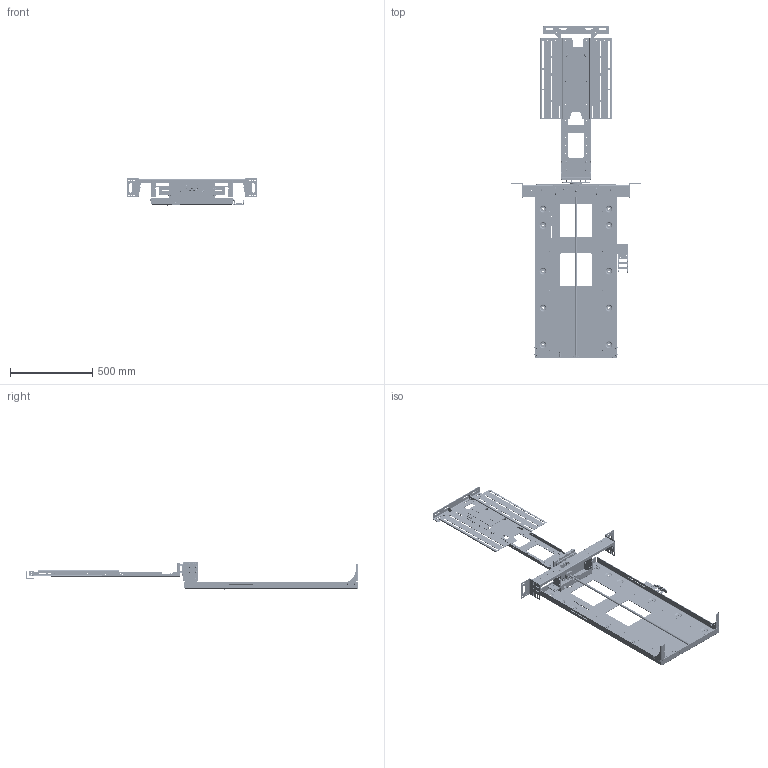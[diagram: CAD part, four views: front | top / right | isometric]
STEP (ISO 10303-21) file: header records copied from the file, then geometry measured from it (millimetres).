
FILE_DESCRIPTION (( 'STEP AP203' ), '1' );
FILE_NAME ('LSM-BE7 - 3D CAD UP ISSUE001.STEP', '2023-05-25T14:49:05', ( '' ), ( '' ), 'SwSTEP 2.0', 'SolidWorks 2019', '' );
FILE_SCHEMA (( 'CONFIG_CONTROL_DESIGN' ));
Length unit declared in the file: millimetre
Products named in the file (73): LSM21-409-BP MOUNT DISC PLATE; LSM V4-220 H-19 KH MOUNT DISC; ISO 7380 - M4 x 8 - 8N_ISO 7380 - M4 x 8 - 8N; LSM V4-401 BACK PLATE PUNCH_H1060; LSM21-406-BP BE TOP BRACKET; LSM V4-002 FOOT LEFT; ISO 10642 - M5 x 8 --- 8N_ISO 10642 - M5 x 8 --- 8N; LSM V4-057 BLANK SWITCH CARRIER; ISO 7380 - M6 x 10 --- 10N_ISO 7380 - M6 x 10 --- 10N; ISO 4762 M5 x 50 - 22N_ISO 4762 M5 x 50 - 22N; LSM V4-010 TOP SWITCH STOP; LSM21-448-MS SWITCH HOUSING ; ISO - 4032 - M4 - D - N_ISO - 4032 - M4 - D - N; Hexagon Nut ISO - 4033 - M6 - D - N_Hexagon Nut ISO - 4033 - M6 - D - N; LSM21-403-BP SWIVEL COVER_FOLDED; ISO 10642 - M6 x 12 --- 12N_ISO 10642 - M6 x 12 --- 12N; M6 Hex Post_20; LSM21-408-BP UPRIGHT MIRROR; Washer ISO 7093 - 6BZP_Washer ISO 7093 - 6BZP; LSM V4-252 LEAD SCREW TOP BUSH; LSM21-201-MS COVER BOSS_DEFAULT; ISO - 4034 - M6 - N_ISO - 4034 - M6 - N; ISO 7380 - M4 x 10 - 10N_ISO 7380 - M4 x 10 - 10N; Washer ISO 7089 - 6BZP_Washer ISO 7089 - 6BZP; SWITCH HOUSING LANDING BOARD; ISO 7380 - M6 x 12 --- 12N_ISO 7380 - M6 x 12 --- 12N; LSM-BE7 - 3D CAD UP ISSUE001; ISO 4762 M5 x 8 --- 8N_ISO 4762 M5 x 8 --- 8N; KH-002 MOUNT LOCK PLATE_Cam; ISO 7380 - M6 x 16 - 16N_ISO 7380 - M6 x 16 - 16N; ISO 10642 - M6 x 16 - 16C_ISO 10642 - M6 x 16 - 16C; 0033-014 60mm TRACK END M_Z14.4.1PZ; LSM21-404-BP LIFT MOUNT_780 ; LSM V4-007 BLOCK BRACKET MIRROR; ISO - 4032 - M5 - D - N_ISO - 4032 - M5 - D - N; ISO 4762 M6 x 40 - 24N_ISO 4762 M6 x 40 - 24N; LSM V4-245 TOP MOTOR BOSS; KH-204 CAM BOSS; LSM21-410-BP BEAM FRONT; ISO 7380 - M5 x 12 - 12N_ISO 7380 - M5 x 12 - 12N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
Assembly tree (203 placements, depth 2):
  LSM-BE7 - 3D CAD UP ISSUE001
    LSM V4-401 BACK PLATE PUNCH_H1060
    LSM Igus Bracket_V2
    0033-014 60mm TRACK END M_Z14.4.1PZ
    LSM V4-211 LEAD SCREW_H1060
    LSM21-415-BP BEAM
    LSM21-410-BP BEAM FRONT
    LSM V4-006 BLOCK BRACKET
    0077-007 SAIA-BURGESS SEALED MICROSWITCH_OPERATING  x2
    M6 Hex Post_20
    0033-013 60mm TRACK LINK_Z14.4.028.0  x2
    LSM V4-002 FOOT LEFT
    LSM V4-003 FOOT RIGHT
    LSM V4-252 LEAD SCREW TOP BUSH
    LSM V4-251 LEAD SCREW BOTTOM BUSH
    LSM V4-010 TOP SWITCH STOP
    LSM V4-057 BLANK SWITCH CARRIER  x2
    LSM V4-245 TOP MOTOR BOSS
    SWITCH HOUSING LANDING BOARD
    LSM21-409-BP MOUNT DISC PLATE
    LSM21-448-MS SWITCH HOUSING 
    LSM21-004-BP UPRIGHT FOOT
    LSM21-201-MS COVER BOSS_DEFAULT  x2
    LSM21-403-BP SWIVEL COVER_FOLDED
    LSM21-407-BP UPRIGHT
    LSM21-406-BP BE TOP BRACKET
    LSM21-408-BP UPRIGHT MIRROR
    LSM21-404-BP LIFT MOUNT_780 
    LSM V4-220 H-19 KH MOUNT DISC
    LSM21-005-BP LOWER PLATE_FOLDED
    KH-001 MOUNT PLATE_V400
    KH-204 CAM BOSS
    KH-205 BOSS SPACER_15MM  x4
    KH-002 MOUNT LOCK PLATE_Cam
    KH-206 SCREEN MOUNT BOSS  x4
    KH-003 CAM LEVER
    M4X20mm HEX SPACER  x2
    LSM V4-007 BLOCK BRACKET MIRROR
    Hexagon Flange Nut ISO - 4161 - M6 - N_Hexagon Flange Nut ISO - 4161 - M6 - N  x4
    ISO 10642 - M5 x 8 --- 8N_ISO 10642 - M5 x 8 --- 8N  x2
    ISO 4762 M5 x 8 --- 8N_ISO 4762 M5 x 8 --- 8N  x2
    ISO 7380 - M5 x 10 --- 10N_ISO 7380 - M5 x 10 --- 10N  x2
    ISO 7380 - M6 x 10 --- 10N_ISO 7380 - M6 x 10 --- 10N  x18
    ISO 4017 - M6 x 16-N_ISO 4017 - M6 x 16-N
    ISO 10642 - M6 x 12 --- 12N_ISO 10642 - M6 x 12 --- 12N
    Hexagon Nut ISO - 4033 - M6 - D - N_Hexagon Nut ISO - 4033 - M6 - D - N
    ISO 7380 - M6 x 12 --- 12N_ISO 7380 - M6 x 12 --- 12N  x11
    ISO 7380 - M5 x 12 --- 12N_ISO 7380 - M5 x 12 --- 12N  x8
    ISO 4762 M5 x 50 - 22N_ISO 4762 M5 x 50 - 22N  x2
    ISO 10642 - M4 x 12 - 12C_ISO 10642 - M4 x 12 - 12C  x3
    ISO 7380 - M5 x 12 - 12N_ISO 7380 - M5 x 12 - 12N  x3
    Washer ISO 7089 - 5_Washer ISO 7089 - 5  x2
    ISO - 4032 - M5 - D - N_ISO - 4032 - M5 - D - N  x2
    ISO 7380 - M6 x 16 - 16N_ISO 7380 - M6 x 16 - 16N  x4
    Washer ISO 7089 - 6_Washer ISO 7089 - 6  x12
    ISO - 4034 - M6 - N_ISO - 4034 - M6 - N  x4
    ISO - 4161 - M6 - N_ISO - 4161 - M6 - N  x4
    ISO 7380 - M6 x 20 - 20N_ISO 7380 - M6 x 20 - 20N  x4
    ISO - 4032 - M4 - D - N_ISO - 4032 - M4 - D - N  x2
    Washer ISO 7089 - 4_Washer ISO 7089 - 4  x2
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Bounding box: 795 x 2015 x 166 mm (x, y, z)
Volume: 4680178.2 mm3; surface area: 2889864.4 mm2
Topology: 203 solids, 203 shells, 5130 faces, 12138 edges, 7606 vertices
Faces by surface type: plane 2884, cylinder 1294, cone 612, torus 197, bspline 74, sphere 69
Full cylindrical faces by diameter (mm): 1.5 x6, 2.55 x4, 3 x10, 3.3 x6, 3.5 x2, 4 x17, 4.2 x10, 4.3 x4, 4.5 x4, 4.65 x9, 5 x74, 5.2 x2, 5.3 x4, 5.415 x2, 5.5 x6, 5.55 x47, 6 x97, 6.2 x83, 6.3 x8, 6.4 x37, 6.5 x10, 6.6 x10, 6.8 x6, 7 x2, 7.1 x3, 7.2 x1, 7.53 x3, 7.6 x5, 8.5 x4, 9 x2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
Entity records: 98210 total; most frequent: CARTESIAN_POINT 19557, DIRECTION 14341, ORIENTED_EDGE 12670, EDGE_CURVE 6335, AXIS2_PLACEMENT_3D 5382, VERTEX_POINT 4350, EDGE_LOOP 4271, VECTOR 3577
